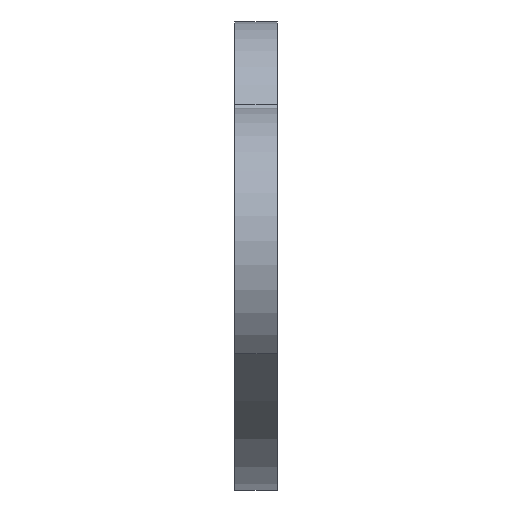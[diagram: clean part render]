
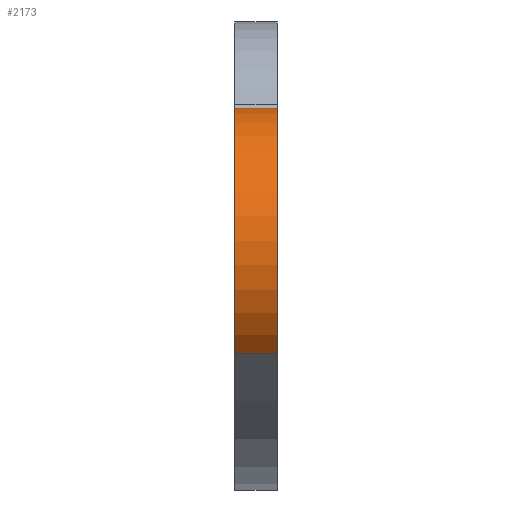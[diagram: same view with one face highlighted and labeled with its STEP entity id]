
A CAD part, left-side view. The second image highlights one B-rep face of the part: STEP entity #2173.
In plain terms, the highlighted cylindrical face has radius 2.7 mm (diameter 5.4 mm), a partial arc.
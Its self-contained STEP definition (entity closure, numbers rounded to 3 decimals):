
#13 = CIRCLE ( 'NONE', #1247, 2.7 ) ;
#200 = DIRECTION ( 'NONE',  ( 0., 0., -1. ) ) ;
#281 = FACE_OUTER_BOUND ( 'NONE', #1658, .T. ) ;
#327 = VERTEX_POINT ( 'NONE', #1452 ) ;
#339 = EDGE_CURVE ( 'NONE', #2241, #327, #1789, .T. ) ;
#365 = DIRECTION ( 'NONE',  ( 0., 0., -1. ) ) ;
#651 = CARTESIAN_POINT ( 'NONE',  ( 24.667, -51.41, 0. ) ) ;
#787 = CARTESIAN_POINT ( 'NONE',  ( 25.693, -51.41, 2.497 ) ) ;
#822 = DIRECTION ( 'NONE',  ( 0., 0., -1. ) ) ;
#869 = ORIENTED_EDGE ( 'NONE', *, *, #339, .T. ) ;
#916 = DIRECTION ( 'NONE',  ( 0., -1., 0. ) ) ;
#924 = CARTESIAN_POINT ( 'NONE',  ( 22.717, -51.41, -1.868 ) ) ;
#953 = ORIENTED_EDGE ( 'NONE', *, *, #1590, .T. ) ;
#1020 = CARTESIAN_POINT ( 'NONE',  ( 22.717, -51.41, -1.868 ) ) ;
#1022 = VECTOR ( 'NONE', #1630, 1000. ) ;
#1101 = EDGE_CURVE ( 'NONE', #1451, #327, #2179, .T. ) ;
#1134 = VECTOR ( 'NONE', #1810, 1000. ) ;
#1140 = ORIENTED_EDGE ( 'NONE', *, *, #1577, .T. ) ;
#1247 = AXIS2_PLACEMENT_3D ( 'NONE', #1499, #916, #200 ) ;
#1263 = CARTESIAN_POINT ( 'NONE',  ( 25.693, -52.2, 2.497 ) ) ;
#1311 = DIRECTION ( 'NONE',  ( 0., -1., 0. ) ) ;
#1337 = ORIENTED_EDGE ( 'NONE', *, *, #1101, .F. ) ;
#1451 = VERTEX_POINT ( 'NONE', #1263 ) ;
#1452 = CARTESIAN_POINT ( 'NONE',  ( 22.717, -52.2, -1.868 ) ) ;
#1467 = CARTESIAN_POINT ( 'NONE',  ( 24.667, -52.2, 0. ) ) ;
#1499 = CARTESIAN_POINT ( 'NONE',  ( 24.667, -51.41, 0. ) ) ;
#1577 = EDGE_CURVE ( 'NONE', #1451, #2168, #2138, .T. ) ;
#1590 = EDGE_CURVE ( 'NONE', #2168, #2241, #13, .T. ) ;
#1630 = DIRECTION ( 'NONE',  ( 0., 1., 0. ) ) ;
#1658 = EDGE_LOOP ( 'NONE', ( #1337, #1140, #953, #869 ) ) ;
#1672 = CARTESIAN_POINT ( 'NONE',  ( 25.693, -51.41, 2.497 ) ) ;
#1689 = DIRECTION ( 'NONE',  ( 0., -1., 0. ) ) ;
#1789 = LINE ( 'NONE', #924, #1134 ) ;
#1810 = DIRECTION ( 'NONE',  ( 0., -1., 0. ) ) ;
#1886 = CYLINDRICAL_SURFACE ( 'NONE', #2110, 2.7 ) ;
#2110 = AXIS2_PLACEMENT_3D ( 'NONE', #651, #1689, #822 ) ;
#2138 = LINE ( 'NONE', #787, #1022 ) ;
#2168 = VERTEX_POINT ( 'NONE', #1672 ) ;
#2173 = ADVANCED_FACE ( 'NONE', ( #281 ), #1886, .T. ) ;
#2179 = CIRCLE ( 'NONE', #2228, 2.7 ) ;
#2228 = AXIS2_PLACEMENT_3D ( 'NONE', #1467, #1311, #365 ) ;
#2241 = VERTEX_POINT ( 'NONE', #1020 ) ;
